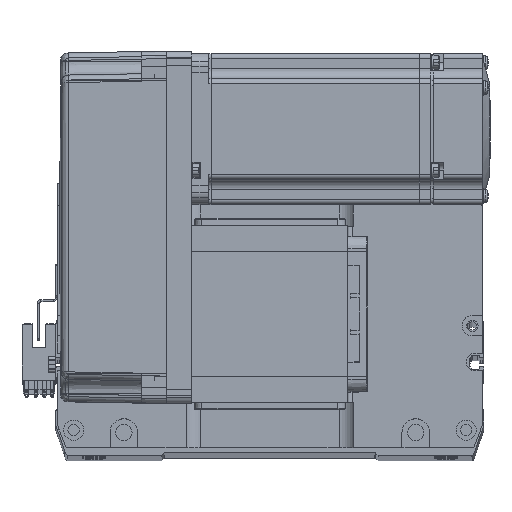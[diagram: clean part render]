
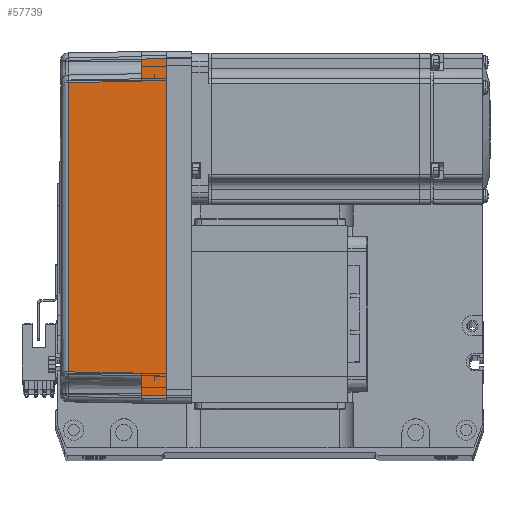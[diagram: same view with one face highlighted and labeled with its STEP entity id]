
A CAD part, top view. The second image highlights one B-rep face of the part: STEP entity #57739.
In plain terms, the highlighted planar face has unit normal (-0.018, 0, 1) as drawn and (0, 1, 0.017) by its records, which use the part's own axes.
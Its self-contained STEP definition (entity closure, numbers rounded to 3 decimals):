
#1227 = ORIENTED_EDGE ( 'NONE', *, *, #48243, .T. ) ;
#1277 = ORIENTED_EDGE ( 'NONE', *, *, #37367, .F. ) ;
#1815 = CARTESIAN_POINT ( 'NONE',  ( -67., 36., 0. ) ) ;
#3119 = DIRECTION ( 'NONE',  ( 0.017, -0.017, 1. ) ) ;
#3423 = VERTEX_POINT ( 'NONE', #50275 ) ;
#3733 = EDGE_CURVE ( 'NONE', #38312, #42569, #30374, .T. ) ;
#4322 = CARTESIAN_POINT ( 'NONE',  ( 70., 35.825, 10. ) ) ;
#4447 = LINE ( 'NONE', #12430, #26064 ) ;
#11804 = VERTEX_POINT ( 'NONE', #12849 ) ;
#11999 = EDGE_CURVE ( 'NONE', #42569, #20036, #36108, .T. ) ;
#12008 = CARTESIAN_POINT ( 'NONE',  ( 0., 36., 0. ) ) ;
#12417 = AXIS2_PLACEMENT_3D ( 'NONE', #59497, #44710, #15577 ) ;
#12430 = CARTESIAN_POINT ( 'NONE',  ( -67., 36., 0. ) ) ;
#12849 = CARTESIAN_POINT ( 'NONE',  ( -58., 35.825, 10. ) ) ;
#13810 = VECTOR ( 'NONE', #51570, 1000. ) ;
#15103 = EDGE_LOOP ( 'NONE', ( #49259, #29860, #61517, #39546, #30657, #1227, #29702, #1277 ) ) ;
#15577 = DIRECTION ( 'NONE',  ( 0., -0.017, 1. ) ) ;
#16167 = VECTOR ( 'NONE', #56154, 1000. ) ;
#17915 = EDGE_CURVE ( 'NONE', #43555, #3423, #4447, .T. ) ;
#17919 = CARTESIAN_POINT ( 'NONE',  ( 57.495, 35.32, 38.985 ) ) ;
#18585 = DIRECTION ( 'NONE',  ( 0.017, 0.017, -1. ) ) ;
#19146 = EDGE_CURVE ( 'NONE', #11804, #38312, #27445, .T. ) ;
#20036 = VERTEX_POINT ( 'NONE', #38094 ) ;
#20275 = VECTOR ( 'NONE', #24380, 1000. ) ;
#24380 = DIRECTION ( 'NONE',  ( 1., 0., 0. ) ) ;
#25912 = VERTEX_POINT ( 'NONE', #32971 ) ;
#26064 = VECTOR ( 'NONE', #3119, 1000. ) ;
#26961 = LINE ( 'NONE', #12008, #13810 ) ;
#27445 = LINE ( 'NONE', #56252, #45158 ) ;
#27500 = CARTESIAN_POINT ( 'NONE',  ( -57.495, 35.32, 38.985 ) ) ;
#29702 = ORIENTED_EDGE ( 'NONE', *, *, #47419, .F. ) ;
#29860 = ORIENTED_EDGE ( 'NONE', *, *, #60630, .T. ) ;
#30374 = B_SPLINE_CURVE_WITH_KNOTS ( 'NONE', 3,
 ( #27500, #32031, #57111, #17919 ),
 .UNSPECIFIED., .F., .F.,
 ( 4, 4 ),
 ( 0., 1. ),
 .UNSPECIFIED. ) ;
#30657 = ORIENTED_EDGE ( 'NONE', *, *, #11999, .T. ) ;
#32031 = CARTESIAN_POINT ( 'NONE',  ( -19.165, 35.316, 39.181 ) ) ;
#32971 = CARTESIAN_POINT ( 'NONE',  ( 66.826, 35.825, 10. ) ) ;
#33286 = CARTESIAN_POINT ( 'NONE',  ( 67.001, 36.001, -0.052 ) ) ;
#33422 = LINE ( 'NONE', #4322, #20275 ) ;
#35497 = LINE ( 'NONE', #51224, #16167 ) ;
#36108 = LINE ( 'NONE', #47525, #57608 ) ;
#37367 = EDGE_CURVE ( 'NONE', #43555, #57151, #26961, .T. ) ;
#38094 = CARTESIAN_POINT ( 'NONE',  ( 58., 35.825, 10. ) ) ;
#38312 = VERTEX_POINT ( 'NONE', #52614 ) ;
#39546 = ORIENTED_EDGE ( 'NONE', *, *, #3733, .T. ) ;
#42569 = VERTEX_POINT ( 'NONE', #45864 ) ;
#43195 = DIRECTION ( 'NONE',  ( -0.017, -0.017, 1. ) ) ;
#43555 = VERTEX_POINT ( 'NONE', #1815 ) ;
#44275 = FACE_OUTER_BOUND ( 'NONE', #15103, .T. ) ;
#44710 = DIRECTION ( 'NONE',  ( 0., 1., 0.017 ) ) ;
#45158 = VECTOR ( 'NONE', #56891, 1000. ) ;
#45864 = CARTESIAN_POINT ( 'NONE',  ( 57.495, 35.32, 38.985 ) ) ;
#47419 = EDGE_CURVE ( 'NONE', #57151, #25912, #50886, .T. ) ;
#47525 = CARTESIAN_POINT ( 'NONE',  ( 57.495, 35.32, 38.985 ) ) ;
#48243 = EDGE_CURVE ( 'NONE', #20036, #25912, #35497, .T. ) ;
#49259 = ORIENTED_EDGE ( 'NONE', *, *, #17915, .T. ) ;
#50275 = CARTESIAN_POINT ( 'NONE',  ( -66.826, 35.825, 10. ) ) ;
#50886 = LINE ( 'NONE', #33286, #57805 ) ;
#51224 = CARTESIAN_POINT ( 'NONE',  ( 70., 35.825, 10. ) ) ;
#51570 = DIRECTION ( 'NONE',  ( 1., 0., 0. ) ) ;
#52614 = CARTESIAN_POINT ( 'NONE',  ( -57.495, 35.32, 38.985 ) ) ;
#55179 = PLANE ( 'NONE',  #12417 ) ;
#56154 = DIRECTION ( 'NONE',  ( 1., 0., 0. ) ) ;
#56252 = CARTESIAN_POINT ( 'NONE',  ( -58., 35.825, 10. ) ) ;
#56891 = DIRECTION ( 'NONE',  ( 0.017, -0.017, 1. ) ) ;
#57111 = CARTESIAN_POINT ( 'NONE',  ( 19.165, 35.316, 39.181 ) ) ;
#57151 = VERTEX_POINT ( 'NONE', #59585 ) ;
#57608 = VECTOR ( 'NONE', #18585, 1000. ) ;
#57739 = ADVANCED_FACE ( 'NONE', ( #44275 ), #55179, .T. ) ;
#57805 = VECTOR ( 'NONE', #43195, 1000. ) ;
#59497 = CARTESIAN_POINT ( 'NONE',  ( 70., 36., 0. ) ) ;
#59585 = CARTESIAN_POINT ( 'NONE',  ( 67., 36., 0. ) ) ;
#60630 = EDGE_CURVE ( 'NONE', #3423, #11804, #33422, .T. ) ;
#61517 = ORIENTED_EDGE ( 'NONE', *, *, #19146, .T. ) ;
